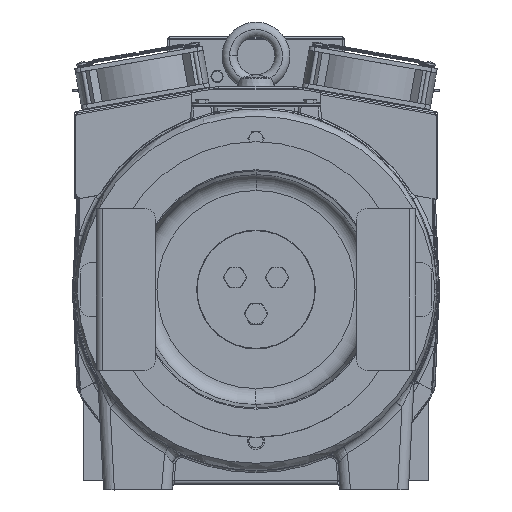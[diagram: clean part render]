
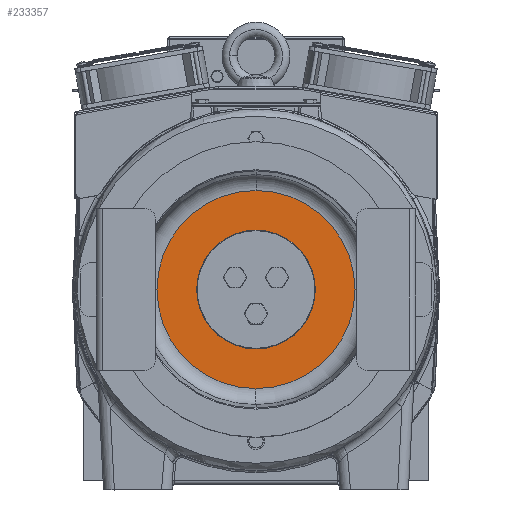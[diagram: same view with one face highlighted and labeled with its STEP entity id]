
A CAD part, top view. The second image highlights one B-rep face of the part: STEP entity #233357.
In plain terms, the highlighted planar face has unit normal (0, 0, 1) as drawn and (0, 0, -1) by its records, which use the part's own axes.
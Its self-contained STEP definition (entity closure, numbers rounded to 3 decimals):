
#232688=CARTESIAN_POINT('',(0.,0.,-35.));
#232689=DIRECTION('',(0.,0.,-1.));
#232690=DIRECTION('',(0.,1.,0.));
#232691=AXIS2_PLACEMENT_3D('',#232688,#232689,#232690);
#232693=CARTESIAN_POINT('',(0.,0.,-35.));
#232694=DIRECTION('',(0.,0.,-1.));
#232695=DIRECTION('',(0.,-1.,0.));
#232696=AXIS2_PLACEMENT_3D('',#232693,#232694,#232695);
#232698=CARTESIAN_POINT('',(0.,0.,-35.));
#232699=DIRECTION('',(0.,0.,-1.));
#232700=DIRECTION('',(0.27,0.963,0.));
#232701=AXIS2_PLACEMENT_3D('',#232698,#232699,#232700);
#232703=DIRECTION('',(0.,1.,0.));
#232704=VECTOR('',#232703,8.177);
#232705=CARTESIAN_POINT('',(-10.,35.623,
-35.));
#232706=LINE('',#232705,#232704);
#232707=DIRECTION('',(1.,0.,0.));
#232708=VECTOR('',#232707,20.);
#232709=CARTESIAN_POINT('',(-10.,43.8,-35.));
#232710=LINE('',#232709,#232708);
#232711=DIRECTION('',(0.,-1.,0.));
#232712=VECTOR('',#232711,8.177);
#232713=CARTESIAN_POINT('',(10.,43.8,-35.));
#232714=LINE('',#232713,#232712);
#232715=CARTESIAN_POINT('',(0.,-45.,-35.));
#232716=DIRECTION('',(0.,0.,-1.));
#232717=DIRECTION('',(1.,0.,0.));
#232718=AXIS2_PLACEMENT_3D('',#232715,#232716,#232717);
#232720=CARTESIAN_POINT('',(0.,-45.,-35.));
#232721=DIRECTION('',(0.,0.,-1.));
#232722=DIRECTION('',(-1.,0.,0.));
#232723=AXIS2_PLACEMENT_3D('',#232720,#232721,#232722);
#232725=CARTESIAN_POINT('',(38.971,22.5,-35.));
#232726=DIRECTION('',(0.,0.,-1.));
#232727=DIRECTION('',(-0.5,0.866,0.));
#232728=AXIS2_PLACEMENT_3D('',#232725,#232726,#232727);
#232730=CARTESIAN_POINT('',(38.971,22.5,-35.));
#232731=DIRECTION('',(0.,0.,-1.));
#232732=DIRECTION('',(0.5,-0.866,0.));
#232733=AXIS2_PLACEMENT_3D('',#232730,#232731,#232732);
#232735=CARTESIAN_POINT('',(-38.971,22.5,-35.));
#232736=DIRECTION('',(0.,0.,-1.));
#232737=DIRECTION('',(-0.5,-0.866,0.));
#232738=AXIS2_PLACEMENT_3D('',#232735,#232736,#232737);
#232740=CARTESIAN_POINT('',(-38.971,22.5,-35.));
#232741=DIRECTION('',(0.,0.,-1.));
#232742=DIRECTION('',(0.5,0.866,0.));
#232743=AXIS2_PLACEMENT_3D('',#232740,#232741,#232742);
#232971=CARTESIAN_POINT('',(0.,91.764,-35.));
#232972=CARTESIAN_POINT('',(0.,-91.764,-35.));
#232973=VERTEX_POINT('',#232971);
#232974=VERTEX_POINT('',#232972);
#232983=CARTESIAN_POINT('',(10.,35.623,-35.));
#232984=CARTESIAN_POINT('',(-10.,35.623,-35.));
#232985=VERTEX_POINT('',#232983);
#232986=VERTEX_POINT('',#232984);
#232997=CARTESIAN_POINT('',(4.25,-45.,-35.));
#232998=CARTESIAN_POINT('',(-4.25,-45.,-35.));
#232999=VERTEX_POINT('',#232997);
#233000=VERTEX_POINT('',#232998);
#233007=CARTESIAN_POINT('',(36.846,26.181,-35.));
#233008=CARTESIAN_POINT('',(41.096,18.819,-35.));
#233009=VERTEX_POINT('',#233007);
#233010=VERTEX_POINT('',#233008);
#233017=CARTESIAN_POINT('',(-41.096,18.819,-35.));
#233018=CARTESIAN_POINT('',(-36.846,26.181,-35.));
#233019=VERTEX_POINT('',#233017);
#233020=VERTEX_POINT('',#233018);
#233021=CARTESIAN_POINT('',(-10.,43.8,-35.));
#233022=CARTESIAN_POINT('',(10.,43.8,-35.));
#233023=VERTEX_POINT('',#233021);
#233024=VERTEX_POINT('',#233022);
#233320=CARTESIAN_POINT('',(0.,0.,-35.));
#233321=DIRECTION('',(0.,0.,1.));
#233322=DIRECTION('',(0.,1.,0.));
#233323=AXIS2_PLACEMENT_3D('',#233320,#233321,#233322);
#233324=PLANE('',#233323);
#233326=ORIENTED_EDGE('',*,*,#233325,.F.);
#233328=ORIENTED_EDGE('',*,*,#233327,.F.);
#233329=EDGE_LOOP('',(#233326,#233328));
#233330=FACE_OUTER_BOUND('',#233329,.F.);
#233331=ORIENTED_EDGE('',*,*,#233310,.T.);
#233333=ORIENTED_EDGE('',*,*,#233332,.T.);
#233335=ORIENTED_EDGE('',*,*,#233334,.T.);
#233336=ORIENTED_EDGE('',*,*,#233294,.T.);
#233337=EDGE_LOOP('',(#233331,#233333,#233335,#233336));
#233338=FACE_BOUND('',#233337,.F.);
#233340=ORIENTED_EDGE('',*,*,#233339,.T.);
#233342=ORIENTED_EDGE('',*,*,#233341,.T.);
#233343=EDGE_LOOP('',(#233340,#233342));
#233344=FACE_BOUND('',#233343,.F.);
#233346=ORIENTED_EDGE('',*,*,#233345,.T.);
#233348=ORIENTED_EDGE('',*,*,#233347,.T.);
#233349=EDGE_LOOP('',(#233346,#233348));
#233350=FACE_BOUND('',#233349,.F.);
#233352=ORIENTED_EDGE('',*,*,#233351,.T.);
#233354=ORIENTED_EDGE('',*,*,#233353,.T.);
#233355=EDGE_LOOP('',(#233352,#233354));
#233356=FACE_BOUND('',#233355,.F.);
#233357=ADVANCED_FACE('',(#233330,#233338,#233344,#233350,#233356),#233324,.F.);
#232692=CIRCLE('',#232691,91.764);
#232697=CIRCLE('',#232696,91.764);
#232702=CIRCLE('',#232701,37.);
#232719=CIRCLE('',#232718,4.25);
#232724=CIRCLE('',#232723,4.25);
#232729=CIRCLE('',#232728,4.25);
#232734=CIRCLE('',#232733,4.25);
#232739=CIRCLE('',#232738,4.25);
#232744=CIRCLE('',#232743,4.25);
#233294=EDGE_CURVE('',#233024,#232985,#232714,.T.);
#233310=EDGE_CURVE('',#232985,#232986,#232702,.T.);
#233325=EDGE_CURVE('',#232973,#232974,#232692,.T.);
#233327=EDGE_CURVE('',#232974,#232973,#232697,.T.);
#233332=EDGE_CURVE('',#232986,#233023,#232706,.T.);
#233334=EDGE_CURVE('',#233023,#233024,#232710,.T.);
#233339=EDGE_CURVE('',#232999,#233000,#232719,.T.);
#233341=EDGE_CURVE('',#233000,#232999,#232724,.T.);
#233345=EDGE_CURVE('',#233009,#233010,#232729,.T.);
#233347=EDGE_CURVE('',#233010,#233009,#232734,.T.);
#233351=EDGE_CURVE('',#233019,#233020,#232739,.T.);
#233353=EDGE_CURVE('',#233020,#233019,#232744,.T.);
